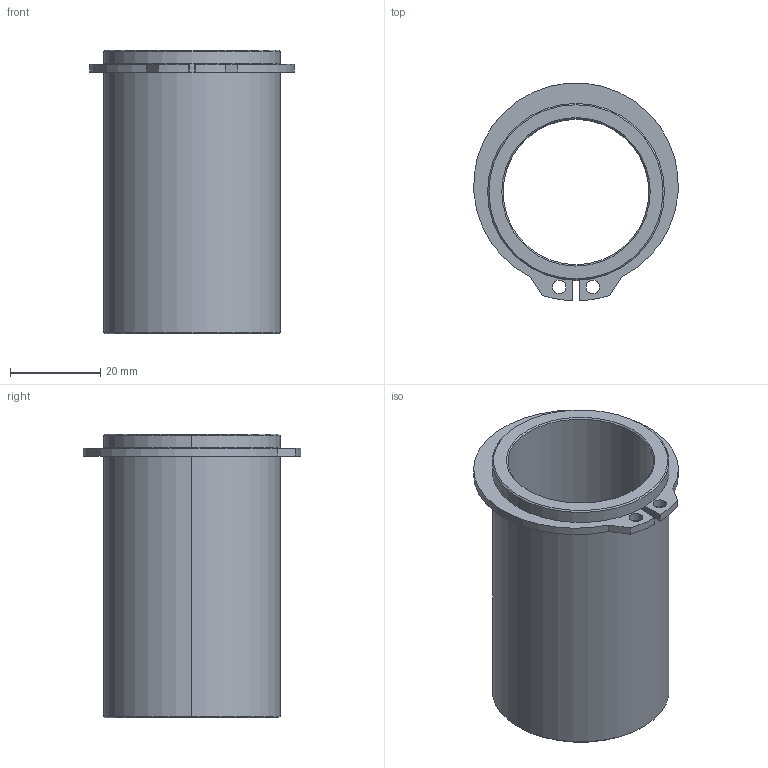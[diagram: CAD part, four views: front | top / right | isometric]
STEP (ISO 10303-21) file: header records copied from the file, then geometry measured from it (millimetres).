
FILE_DESCRIPTION((''),'2;1');
FILE_NAME('C13_032_063.stp','2008-12-17T15:09:00',(''),(''),'Mechanical Desktop 2009','Mechanical Desktop 2009',', , ');
FILE_SCHEMA(('CONFIG_CONTROL_DESIGN'));
Length unit declared in the file: millimetre
Products named in the file (2): Product; blmdl1
Assembly tree (1 placements, depth 2):
  Product
    blmdl1
Bounding box: 45.34 x 48.28 x 63 mm (x, y, z)
Volume: 25188.1 mm3; surface area: 16703.3 mm2
Topology: 2 solids, 2 shells, 34 faces, 76 edges, 48 vertices
Faces by surface type: cylinder 16, plane 10, cone 8
Entity records: 1075 total; most frequent: DIRECTION 188, CARTESIAN_POINT 160, ORIENTED_EDGE 152, AXIS2_PLACEMENT_3D 76, EDGE_CURVE 76, VERTEX_POINT 48, EDGE_LOOP 42, CIRCLE 40
